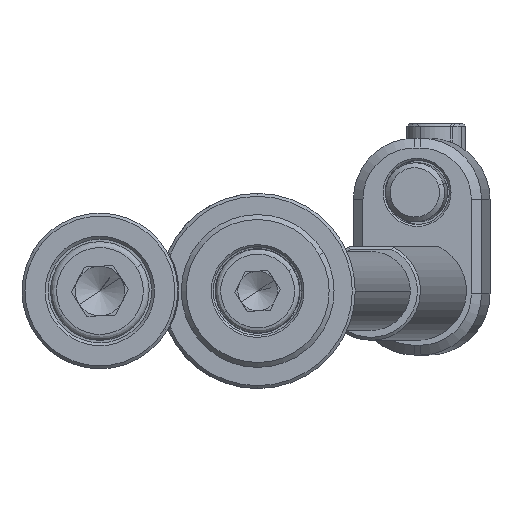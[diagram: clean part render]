
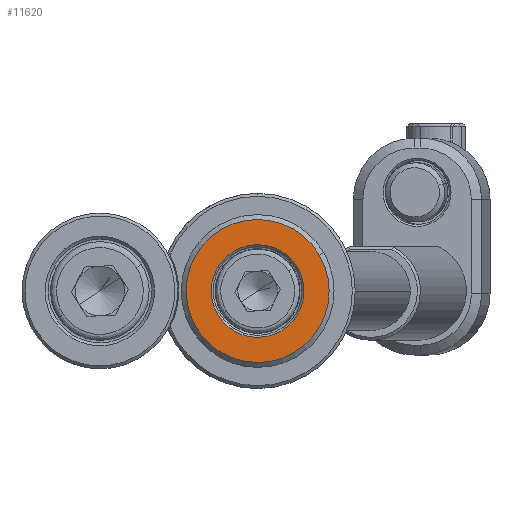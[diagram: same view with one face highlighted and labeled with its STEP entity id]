
A CAD part, front view. The second image highlights one B-rep face of the part: STEP entity #11620.
In plain terms, the highlighted planar face has unit normal (0, -1, 0).
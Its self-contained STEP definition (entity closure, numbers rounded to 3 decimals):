
#146 = DIRECTION ( 'NONE',  ( 0., -1., 0. ) ) ;
#351 = DIRECTION ( 'NONE',  ( -0.865, 0., -0.503 ) ) ;
#531 = VERTEX_POINT ( 'NONE', #10244 ) ;
#1341 = EDGE_LOOP ( 'NONE', ( #4352, #9374 ) ) ;
#2123 = CARTESIAN_POINT ( 'NONE',  ( -6.268, -4., -3.643 ) ) ;
#2271 = ORIENTED_EDGE ( 'NONE', *, *, #9598, .T. ) ;
#2273 = CARTESIAN_POINT ( 'NONE',  ( 0., -4., 0. ) ) ;
#2473 = DIRECTION ( 'NONE',  ( 0., 1., 0. ) ) ;
#2614 = FACE_OUTER_BOUND ( 'NONE', #3201, .T. ) ;
#2747 = VERTEX_POINT ( 'NONE', #12017 ) ;
#2778 = EDGE_CURVE ( 'NONE', #531, #2747, #11678, .T. ) ;
#3201 = EDGE_LOOP ( 'NONE', ( #9722, #2271 ) ) ;
#3235 = CARTESIAN_POINT ( 'NONE',  ( 0., -4., 0. ) ) ;
#3430 = AXIS2_PLACEMENT_3D ( 'NONE', #7188, #8110, #11582 ) ;
#4225 = CIRCLE ( 'NONE', #12956, 7.25 ) ;
#4315 = AXIS2_PLACEMENT_3D ( 'NONE', #9770, #4393, #13292 ) ;
#4352 = ORIENTED_EDGE ( 'NONE', *, *, #2778, .T. ) ;
#4393 = DIRECTION ( 'NONE',  ( 0., 1., 0. ) ) ;
#5831 = CARTESIAN_POINT ( 'NONE',  ( 0., -4., 0. ) ) ;
#6274 = CIRCLE ( 'NONE', #11795, 4.7 ) ;
#6454 = CIRCLE ( 'NONE', #13338, 7.25 ) ;
#7188 = CARTESIAN_POINT ( 'NONE',  ( 2.261, -4., -3.891 ) ) ;
#8110 = DIRECTION ( 'NONE',  ( 0., 1., 0. ) ) ;
#8898 = EDGE_CURVE ( 'NONE', #2747, #531, #6274, .T. ) ;
#9374 = ORIENTED_EDGE ( 'NONE', *, *, #8898, .T. ) ;
#9523 = VERTEX_POINT ( 'NONE', #2123 ) ;
#9598 = EDGE_CURVE ( 'NONE', #13189, #9523, #4225, .T. ) ;
#9722 = ORIENTED_EDGE ( 'NONE', *, *, #13429, .T. ) ;
#9770 = CARTESIAN_POINT ( 'NONE',  ( 0., -4., 0. ) ) ;
#9935 = DIRECTION ( 'NONE',  ( -0.865, 0., -0.503 ) ) ;
#10244 = CARTESIAN_POINT ( 'NONE',  ( 4.063, -4., 2.362 ) ) ;
#11411 = CARTESIAN_POINT ( 'NONE',  ( 6.268, -4., 3.643 ) ) ;
#11443 = FACE_BOUND ( 'NONE', #1341, .T. ) ;
#11582 = DIRECTION ( 'NONE',  ( -0.865, 0., -0.503 ) ) ;
#11620 = ADVANCED_FACE ( 'NONE', ( #11443, #2614 ), #12434, .F. ) ;
#11678 = CIRCLE ( 'NONE', #4315, 4.7 ) ;
#11795 = AXIS2_PLACEMENT_3D ( 'NONE', #5831, #2473, #351 ) ;
#12017 = CARTESIAN_POINT ( 'NONE',  ( -4.063, -4., -2.362 ) ) ;
#12052 = DIRECTION ( 'NONE',  ( 0., -1., 0. ) ) ;
#12434 = PLANE ( 'NONE',  #3430 ) ;
#12956 = AXIS2_PLACEMENT_3D ( 'NONE', #2273, #146, #9935 ) ;
#13188 = DIRECTION ( 'NONE',  ( -0.865, 0., -0.503 ) ) ;
#13189 = VERTEX_POINT ( 'NONE', #11411 ) ;
#13292 = DIRECTION ( 'NONE',  ( -0.865, 0., -0.503 ) ) ;
#13338 = AXIS2_PLACEMENT_3D ( 'NONE', #3235, #12052, #13188 ) ;
#13429 = EDGE_CURVE ( 'NONE', #9523, #13189, #6454, .T. ) ;
